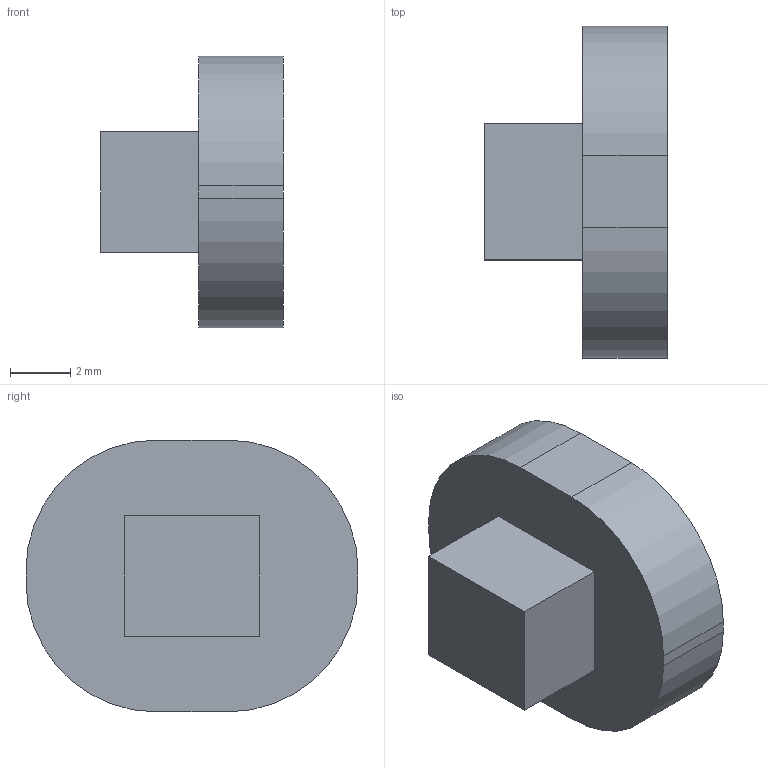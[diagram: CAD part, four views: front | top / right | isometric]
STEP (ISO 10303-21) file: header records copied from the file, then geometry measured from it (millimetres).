
FILE_DESCRIPTION(('Open CASCADE Model'),'2;1');
FILE_NAME('Open CASCADE Shape Model','2026-09-02T15:45:53',('Author'),( 'Open CASCADE'),'Open CASCADE STEP processor 7.7','Open CASCADE 7.7' ,'Unknown');
FILE_SCHEMA(('AUTOMOTIVE_DESIGN { 1 0 10303 214 1 1 1 1 }'));
Length unit declared in the file: millimetre
Products named in the file (1): Open CASCADE STEP translator 7.7 7
Bounding box: 6.05 x 11 x 9 mm (x, y, z)
Volume: 291.3 mm3; surface area: 312.8 mm2
Topology: 1 solids, 1 shells, 15 faces, 36 edges, 24 vertices
Faces by surface type: plane 11, cylinder 4
Entity records: 920 total; most frequent: CARTESIAN_POINT 180, DIRECTION 136, LINE 84, VECTOR 84, ORIENTED_EDGE 72, PCURVE 72, DEFINITIONAL_REPRESENTATION 72, EDGE_CURVE 36
